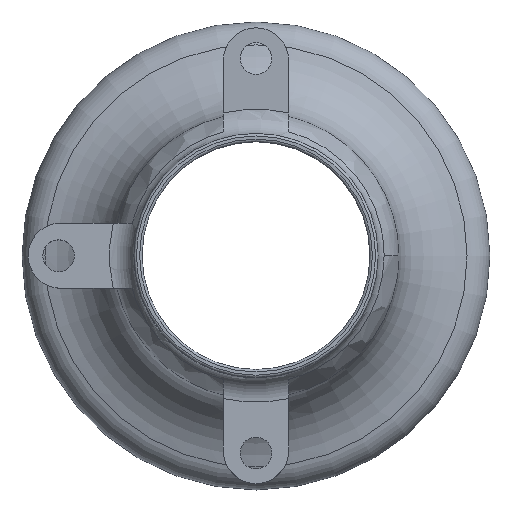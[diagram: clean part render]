
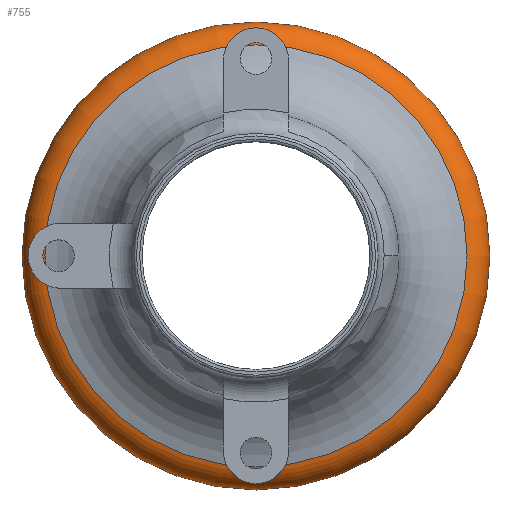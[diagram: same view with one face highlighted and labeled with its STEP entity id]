
A CAD part, top view. The second image highlights one B-rep face of the part: STEP entity #755.
In plain terms, the highlighted toroidal (fillet/blend) face has major radius 64.135 mm and minor radius 8.89 mm.
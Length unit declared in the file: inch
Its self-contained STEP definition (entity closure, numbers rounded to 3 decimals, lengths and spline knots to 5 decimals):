
#102=CIRCLE('',#786,2.59375);
#103=CIRCLE('',#787,2.59375);
#139=CIRCLE('',#845,0.35);
#140=CIRCLE('',#846,2.875);
#141=CIRCLE('',#847,2.875);
#161=TOROIDAL_SURFACE('',#844,2.525,0.35);
#191=FACE_OUTER_BOUND('',#238,.T.);
#238=EDGE_LOOP('',(#653,#654,#655,#656,#657,#658));
#297=VERTEX_POINT('',#1160);
#298=VERTEX_POINT('',#1162);
#361=VERTEX_POINT('',#1920);
#362=VERTEX_POINT('',#1922);
#378=EDGE_CURVE('',#298,#297,#102,.T.);
#379=EDGE_CURVE('',#297,#298,#103,.T.);
#469=EDGE_CURVE('',#298,#361,#139,.T.);
#470=EDGE_CURVE('',#361,#362,#140,.T.);
#471=EDGE_CURVE('',#362,#361,#141,.T.);
#653=ORIENTED_EDGE('',*,*,#378,.T.);
#654=ORIENTED_EDGE('',*,*,#379,.T.);
#655=ORIENTED_EDGE('',*,*,#469,.T.);
#656=ORIENTED_EDGE('',*,*,#470,.T.);
#657=ORIENTED_EDGE('',*,*,#471,.T.);
#658=ORIENTED_EDGE('',*,*,#469,.F.);
#755=ADVANCED_FACE('',(#191),#161,.T.);
#786=AXIS2_PLACEMENT_3D('',#1163,#881,#882);
#787=AXIS2_PLACEMENT_3D('',#1164,#883,#884);
#844=AXIS2_PLACEMENT_3D('',#1919,#1018,#1019);
#845=AXIS2_PLACEMENT_3D('',#1921,#1020,#1021);
#846=AXIS2_PLACEMENT_3D('',#1923,#1022,#1023);
#847=AXIS2_PLACEMENT_3D('',#1924,#1024,#1025);
#881=DIRECTION('center_axis',(0.,0.,-1.));
#882=DIRECTION('ref_axis',(-1.,0.,0.));
#883=DIRECTION('center_axis',(0.,0.,-1.));
#884=DIRECTION('ref_axis',(-1.,0.,0.));
#1018=DIRECTION('center_axis',(0.,0.,1.));
#1019=DIRECTION('ref_axis',(-1.,0.,0.));
#1020=DIRECTION('center_axis',(0.,1.,0.));
#1021=DIRECTION('ref_axis',(1.,0.,0.));
#1022=DIRECTION('center_axis',(0.,0.,1.));
#1023=DIRECTION('ref_axis',(-1.,0.,0.));
#1024=DIRECTION('center_axis',(0.,0.,1.));
#1025=DIRECTION('ref_axis',(-1.,0.,0.));
#1160=CARTESIAN_POINT('',(-2.59375,0.,1.02046));
#1162=CARTESIAN_POINT('',(2.59375,0.,1.02046));
#1163=CARTESIAN_POINT('Origin',(0.,0.,1.02046));
#1164=CARTESIAN_POINT('Origin',(0.,0.,1.02046));
#1919=CARTESIAN_POINT('Origin',(0.,0.,0.67727));
#1920=CARTESIAN_POINT('',(2.875,0.,0.67727));
#1921=CARTESIAN_POINT('Origin',(2.525,0.,0.67727));
#1922=CARTESIAN_POINT('',(-2.875,0.,0.67727));
#1923=CARTESIAN_POINT('Origin',(0.,0.,0.67727));
#1924=CARTESIAN_POINT('Origin',(0.,0.,0.67727));
